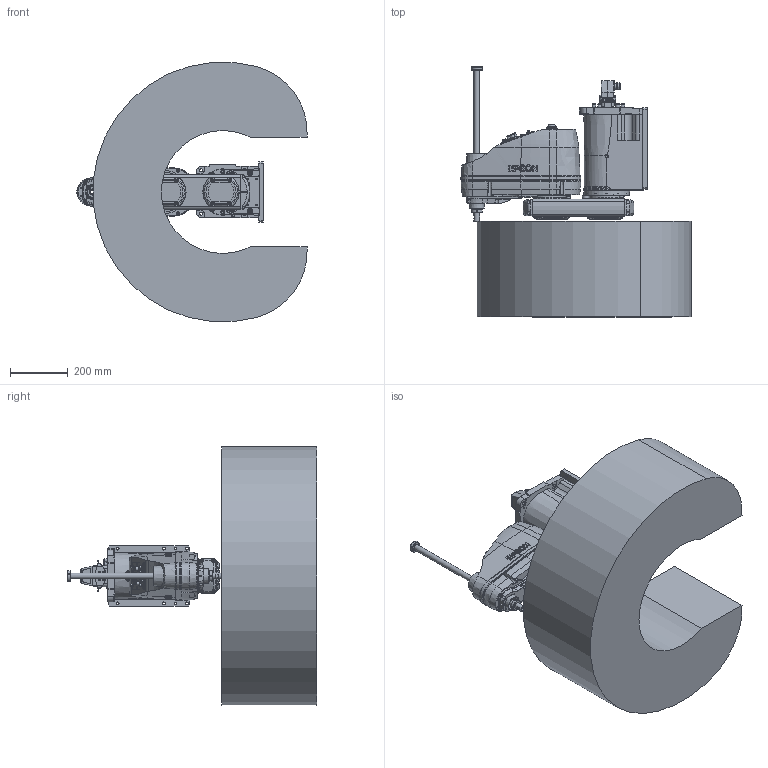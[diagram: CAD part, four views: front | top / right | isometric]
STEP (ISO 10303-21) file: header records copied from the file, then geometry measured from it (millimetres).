
FILE_DESCRIPTION( ( 'STEP AP214' ), '1' );
FILE_NAME( 'C:/Users/9607552/Desktop/GX8-B453SW_langle.stp', '2023-07-07T02:07:24', ( '' ), ( '' ), ' ', 'PARTsolutions', ' ' );
FILE_SCHEMA( ( 'AUTOMOTIVE_DESIGN { 1 0 10303 214 1 1 1 1 }' ) );
Length unit declared in the file: millimetre
Products named in the file (9): GX8-B453SWA-W; _B452SW_BASE; _B452SR; _B452SR_1; _B452SR_2; _B452S_J2; _B453SZA; _Angle-B; _GX8-15-1-B_WS
Assembly tree (10 placements, depth 2):
  GX8-B453SWA-W
    _B452SW_BASE
    _B452SR
    _B452SR_1  x2
    _B452SR_2  x2
    _B452S_J2
    _B453SZA
    _Angle-B
    _GX8-15-1-B_WS
Bounding box: 796.98 x 865 x 896.58 mm (x, y, z)
Volume: 144339214.8 mm3; surface area: 3024481 mm2
Topology: 10 solids, 10 shells, 2865 faces, 7014 edges, 4585 vertices
Faces by surface type: plane 1452, cylinder 933, cone 318, torus 119, bspline 37, sphere 6
Full cylindrical faces by diameter (mm): 1 x48, 1.18 x55, 2.261 x4, 2.459 x12, 3 x32, 3.242 x18, 3.3 x5, 3.9 x4, 4 x4, 4.2 x8, 4.5 x4, 4.8 x5, 5.34 x4, 5.5 x17, 6 x2, 6.2 x4, 6.647 x4, 6.8 x2, 7 x42, 8 x5, 8.5 x4, 9 x24, 10 x24, 11 x4, 11.2 x5, 11.5 x1, 12 x5, 12.25 x1, 13 x7, 13.2 x12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
Entity records: 102228 total; most frequent: CARTESIAN_POINT 19135, DIRECTION 12680, ORIENTED_EDGE 11678, EDGE_CURVE 5839, AXIS2_PLACEMENT_3D 4853, VERTEX_POINT 4216, EDGE_LOOP 3810, FACE_OUTER_BOUND 3165
